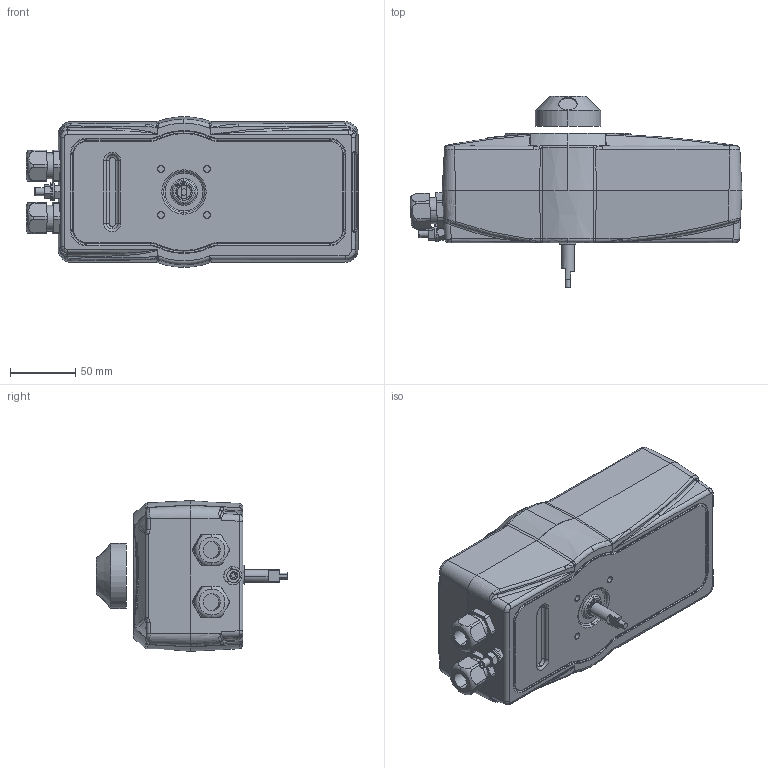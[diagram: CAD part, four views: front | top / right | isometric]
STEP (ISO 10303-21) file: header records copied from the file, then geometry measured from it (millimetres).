
FILE_DESCRIPTION (( 'STEP AP214' ), '1' );
FILE_NAME ('boitier LC3-MU.STEP', '2020-04-15T08:40:26', ( '' ), ( '' ), 'SwSTEP 2.0', 'SolidWorks 2017', '' );
FILE_SCHEMA (( 'AUTOMOTIVE_DESIGN' ));
Length unit declared in the file: millimetre
Products named in the file (2): boitier LC3-MU
Bounding box: 254.7 x 146.7 x 115.56 mm (x, y, z)
Surface area: 113673.2 mm2 (no closed solid volume)
Topology: 0 solids, 18 shells, 633 faces, 1799 edges, 1146 vertices
Faces by surface type: plane 188, bspline 180, cylinder 147, torus 84, cone 30, sphere 4
Entity records: 37120 total; most frequent: CARTESIAN_POINT 15861, ORIENTED_EDGE 3178, DIRECTION 2534, EDGE_CURVE 1785, VERTEX_POINT 1146, AXIS2_PLACEMENT_3D 1032, EDGE_LOOP 686, UNCERTAINTY_MEASURE_WITH_UNIT 635
